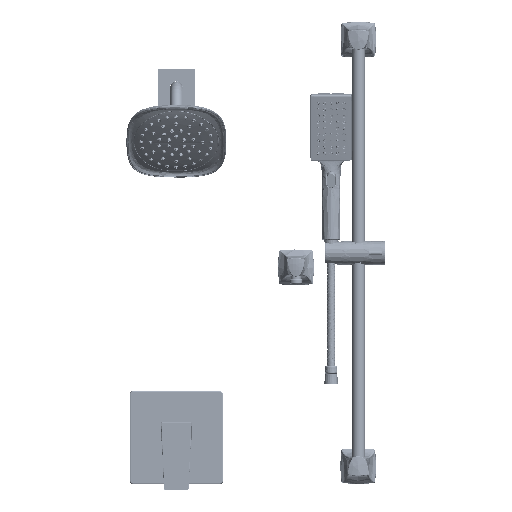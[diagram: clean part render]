
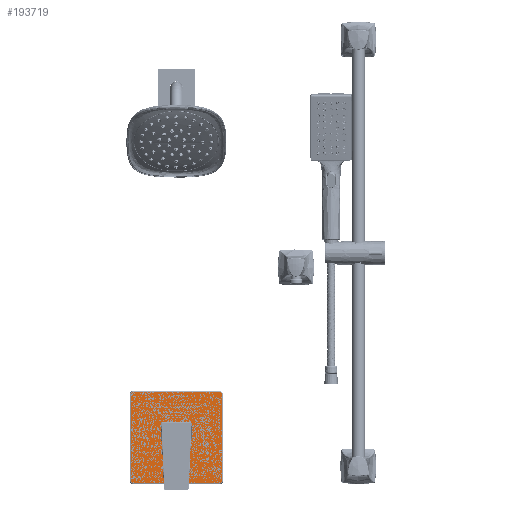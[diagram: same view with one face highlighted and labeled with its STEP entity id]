
A CAD part, top view. The second image highlights one B-rep face of the part: STEP entity #193719.
In plain terms, the highlighted planar face has unit normal (0, 0, 1).
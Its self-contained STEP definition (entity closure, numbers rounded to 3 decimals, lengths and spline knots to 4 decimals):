
#2836 = VERTEX_POINT ( 'NONE', #30809 ) ;
#3181 = DIRECTION ( 'NONE',  ( 1., 0., 0. ) ) ;
#5625 = CARTESIAN_POINT ( 'NONE',  ( 2.875, 2.875, 0.48 ) ) ;
#10059 = EDGE_CURVE ( 'NONE', #134627, #137081, #240510, .T. ) ;
#16442 = VECTOR ( 'NONE', #112574, 39.3701 ) ;
#18121 = AXIS2_PLACEMENT_3D ( 'NONE', #199031, #161736, #64031 ) ;
#21196 = CARTESIAN_POINT ( 'NONE',  ( -2.875, 2.875, 0.48 ) ) ;
#24443 = CARTESIAN_POINT ( 'NONE',  ( 3.045, 2.875, 0.48 ) ) ;
#24938 = EDGE_CURVE ( 'NONE', #121890, #134627, #227529, .T. ) ;
#26613 = CARTESIAN_POINT ( 'NONE',  ( -0.125, -1.0179, 0.48 ) ) ;
#29302 = CARTESIAN_POINT ( 'NONE',  ( 3.045, -2.875, 0.48 ) ) ;
#30809 = CARTESIAN_POINT ( 'NONE',  ( 0.125, -1.27, 0.48 ) ) ;
#31329 = CARTESIAN_POINT ( 'NONE',  ( -2.875, -2.875, 0.48 ) ) ;
#33384 = DIRECTION ( 'NONE',  ( 0., 0., 1. ) ) ;
#33777 = ORIENTED_EDGE ( 'NONE', *, *, #122372, .F. ) ;
#34123 = LINE ( 'NONE', #129351, #16442 ) ;
#36729 = VERTEX_POINT ( 'NONE', #66488 ) ;
#38323 = CIRCLE ( 'NONE', #149187, 0.17 ) ;
#44429 = VECTOR ( 'NONE', #249424, 39.3701 ) ;
#44822 = DIRECTION ( 'NONE',  ( 0., 1., 0. ) ) ;
#47354 = LINE ( 'NONE', #29302, #232134 ) ;
#47919 = CARTESIAN_POINT ( 'NONE',  ( 3.045, -2.875, 0.48 ) ) ;
#48079 = FACE_OUTER_BOUND ( 'NONE', #248170, .T. ) ;
#49592 = DIRECTION ( 'NONE',  ( 1., 0., 0. ) ) ;
#50156 = CARTESIAN_POINT ( 'NONE',  ( -2.875, -2.875, 0.48 ) ) ;
#57089 = EDGE_CURVE ( 'NONE', #36729, #220802, #157658, .T. ) ;
#58535 = ORIENTED_EDGE ( 'NONE', *, *, #10059, .T. ) ;
#60589 = EDGE_CURVE ( 'NONE', #249866, #121890, #38323, .T. ) ;
#61940 = CARTESIAN_POINT ( 'NONE',  ( -2.875, 3.045, 0.48 ) ) ;
#63075 = EDGE_LOOP ( 'NONE', ( #78456, #66263, #33777, #193170 ) ) ;
#64031 = DIRECTION ( 'NONE',  ( 1., 0., 0. ) ) ;
#64805 = DIRECTION ( 'NONE',  ( 1., 0., 0. ) ) ;
#66263 = ORIENTED_EDGE ( 'NONE', *, *, #57089, .F. ) ;
#66488 = CARTESIAN_POINT ( 'NONE',  ( 0.125, -1.0179, 0.48 ) ) ;
#67392 = VERTEX_POINT ( 'NONE', #47919 ) ;
#68646 = DIRECTION ( 'NONE',  ( 1., 0., 0. ) ) ;
#70998 = ORIENTED_EDGE ( 'NONE', *, *, #170968, .T. ) ;
#71330 = DIRECTION ( 'NONE',  ( 1., 0., 0. ) ) ;
#71771 = CARTESIAN_POINT ( 'NONE',  ( -3.045, 2.875, 0.48 ) ) ;
#78456 = ORIENTED_EDGE ( 'NONE', *, *, #199129, .F. ) ;
#93174 = LINE ( 'NONE', #228144, #107698 ) ;
#93466 = EDGE_CURVE ( 'NONE', #137081, #195536, #93174, .T. ) ;
#93929 = LINE ( 'NONE', #190342, #44429 ) ;
#94826 = EDGE_CURVE ( 'NONE', #195536, #67392, #107869, .T. ) ;
#96884 = AXIS2_PLACEMENT_3D ( 'NONE', #50156, #33384, #246788 ) ;
#97176 = VERTEX_POINT ( 'NONE', #113686 ) ;
#101197 = AXIS2_PLACEMENT_3D ( 'NONE', #5625, #240877, #64805 ) ;
#107698 = VECTOR ( 'NONE', #71330, 39.3701 ) ;
#107869 = CIRCLE ( 'NONE', #251488, 0.17 ) ;
#111281 = DIRECTION ( 'NONE',  ( 0., 0., 1. ) ) ;
#112016 = LINE ( 'NONE', #171141, #207681 ) ;
#112172 = DIRECTION ( 'NONE',  ( 0., 0., 1. ) ) ;
#112574 = DIRECTION ( 'NONE',  ( 0., 1., 0. ) ) ;
#113686 = CARTESIAN_POINT ( 'NONE',  ( 2.875, 3.045, 0.48 ) ) ;
#121890 = VERTEX_POINT ( 'NONE', #71771 ) ;
#122372 = EDGE_CURVE ( 'NONE', #2836, #36729, #34123, .T. ) ;
#126506 = PLANE ( 'NONE',  #183356 ) ;
#129351 = CARTESIAN_POINT ( 'NONE',  ( 0.125, -0.9535, 0.48 ) ) ;
#133630 = CARTESIAN_POINT ( 'NONE',  ( -3.045, -2.875, 0.48 ) ) ;
#134627 = VERTEX_POINT ( 'NONE', #243786 ) ;
#137081 = VERTEX_POINT ( 'NONE', #240837 ) ;
#149187 = AXIS2_PLACEMENT_3D ( 'NONE', #21196, #181867, #3181 ) ;
#151281 = ORIENTED_EDGE ( 'NONE', *, *, #192265, .T. ) ;
#152868 = DIRECTION ( 'NONE',  ( 0., -1., 0. ) ) ;
#153224 = CARTESIAN_POINT ( 'NONE',  ( 2.875, -2.875, 0.48 ) ) ;
#156771 = CIRCLE ( 'NONE', #173133, 0.125 ) ;
#157658 = CIRCLE ( 'NONE', #18121, 1.0255 ) ;
#161736 = DIRECTION ( 'NONE',  ( 0., 0., 1. ) ) ;
#166858 = CIRCLE ( 'NONE', #101197, 0.17 ) ;
#170968 = EDGE_CURVE ( 'NONE', #97176, #249866, #112016, .T. ) ;
#171141 = CARTESIAN_POINT ( 'NONE',  ( -2.875, 3.045, 0.48 ) ) ;
#173133 = AXIS2_PLACEMENT_3D ( 'NONE', #208952, #111281, #49592 ) ;
#178699 = VECTOR ( 'NONE', #152868, 39.3701 ) ;
#181867 = DIRECTION ( 'NONE',  ( 0., 0., 1. ) ) ;
#182420 = ORIENTED_EDGE ( 'NONE', *, *, #24938, .T. ) ;
#183356 = AXIS2_PLACEMENT_3D ( 'NONE', #31329, #243432, #68646 ) ;
#185285 = VERTEX_POINT ( 'NONE', #24443 ) ;
#190342 = CARTESIAN_POINT ( 'NONE',  ( -0.125, -1.27, 0.48 ) ) ;
#192265 = EDGE_CURVE ( 'NONE', #185285, #97176, #166858, .T. ) ;
#193170 = ORIENTED_EDGE ( 'NONE', *, *, #229930, .F. ) ;
#193719 = ADVANCED_FACE ( 'NONE', ( #221638, #48079 ), #126506, .T. ) ;
#195536 = VERTEX_POINT ( 'NONE', #197185 ) ;
#197185 = CARTESIAN_POINT ( 'NONE',  ( 2.875, -3.045, 0.48 ) ) ;
#199031 = CARTESIAN_POINT ( 'NONE',  ( 0., 0., 0.48 ) ) ;
#199129 = EDGE_CURVE ( 'NONE', #220802, #242209, #93929, .T. ) ;
#203909 = CARTESIAN_POINT ( 'NONE',  ( -0.125, -1.27, 0.48 ) ) ;
#207681 = VECTOR ( 'NONE', #250744, 39.3701 ) ;
#208952 = CARTESIAN_POINT ( 'NONE',  ( 0., -1.27, 0.48 ) ) ;
#214152 = ORIENTED_EDGE ( 'NONE', *, *, #93466, .T. ) ;
#220802 = VERTEX_POINT ( 'NONE', #26613 ) ;
#221638 = FACE_BOUND ( 'NONE', #63075, .T. ) ;
#227529 = LINE ( 'NONE', #133630, #178699 ) ;
#228144 = CARTESIAN_POINT ( 'NONE',  ( -2.875, -3.045, 0.48 ) ) ;
#229930 = EDGE_CURVE ( 'NONE', #242209, #2836, #156771, .T. ) ;
#231609 = DIRECTION ( 'NONE',  ( 1., 0., 0. ) ) ;
#232134 = VECTOR ( 'NONE', #44822, 39.3701 ) ;
#233781 = ORIENTED_EDGE ( 'NONE', *, *, #252334, .T. ) ;
#237269 = ORIENTED_EDGE ( 'NONE', *, *, #60589, .T. ) ;
#240510 = CIRCLE ( 'NONE', #96884, 0.17 ) ;
#240837 = CARTESIAN_POINT ( 'NONE',  ( -2.875, -3.045, 0.48 ) ) ;
#240877 = DIRECTION ( 'NONE',  ( 0., 0., 1. ) ) ;
#242209 = VERTEX_POINT ( 'NONE', #203909 ) ;
#243432 = DIRECTION ( 'NONE',  ( 0., 0., 1. ) ) ;
#243786 = CARTESIAN_POINT ( 'NONE',  ( -3.045, -2.875, 0.48 ) ) ;
#246788 = DIRECTION ( 'NONE',  ( 1., 0., 0. ) ) ;
#248170 = EDGE_LOOP ( 'NONE', ( #237269, #182420, #58535, #214152, #248651, #233781, #151281, #70998 ) ) ;
#248651 = ORIENTED_EDGE ( 'NONE', *, *, #94826, .T. ) ;
#249424 = DIRECTION ( 'NONE',  ( 0., -1., 0. ) ) ;
#249866 = VERTEX_POINT ( 'NONE', #61940 ) ;
#250744 = DIRECTION ( 'NONE',  ( -1., 0., 0. ) ) ;
#251488 = AXIS2_PLACEMENT_3D ( 'NONE', #153224, #112172, #231609 ) ;
#252334 = EDGE_CURVE ( 'NONE', #67392, #185285, #47354, .T. ) ;
